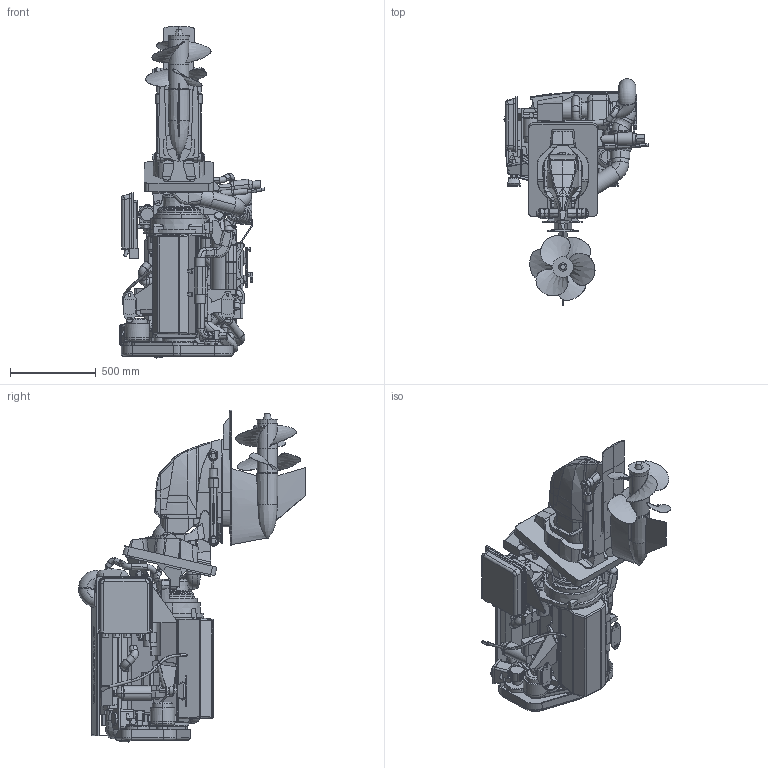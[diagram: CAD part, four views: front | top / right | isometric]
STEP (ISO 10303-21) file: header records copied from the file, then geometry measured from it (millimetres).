
FILE_DESCRIPTION(('CoCreate Modeling STEP Export'),'2;1');
FILE_NAME('6BY3-220Z_ZT370.stp','2013-06-06T 9:50:36',(''),(''),'CoCreate Modeling STEP processor for AP214 (Solid Model)','CoCreate Modeling 16.50A 01-Dec-2009 (C) Parametric Technology GmbH','');
FILE_SCHEMA(('AUTOMOTIVE_DESIGN { 1 0 10303 214 1 1 1 1 }'));
Length unit declared in the file: millimetre
Products named in the file (61): 6BY3_013; 6BY3_003; 6BY3_007; 6BY3_016; 6BY3_009; 6BY3_008; 6BY3_011; 6BY3_002; 6BY3_004; 6BY3_006; 6BY3_012; 6BY3_010; 6BY3_005; 6BY3_001; 6BY3_019; 6BY3_025; 6BY3_020; 6BY3_018; 6BY3_024; 6BY3_023; 6BY3_017; 6BY3_021; 6BY3_026; 6BY3_027; 6BY3_028; 6BY3_029; 6BY3_030; 6BY3_022; 6BY3_043; 6BY3_033; 6BY3_034; 6BY3_042; 6BY3_040; 6BY3_035; 6BY3_039; 6BY3_044; 6BY3_031; 6BY3_032; 6BY3_014; 6BY3_047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
Assembly tree (60 placements, depth 4):
  6BY3-220Z_ZT370
    ZT370_Sterndrive-BY
      Boat
      ZT370_BY_004
      ZT370_BY_003
      ZT370_BY_002
      ZT370_BY_007
      ZT370_BY_006
      ZT370_BY_005
      ZT370_BY_008
      ZT370_BY_012
      ZT370_BY_013
      ZT370_BY_009
      ZT370_BY_011
      ZT370_BY_010
      ZT370_BY_001
    6BY3-220Z_Engine_Sterndrive
      Base
        6BY3_045
        6BY3_041
        6BY3_046
        6BY3_047
        6BY3_014
        6BY3_032
        6BY3_031
        6BY3_044
        6BY3_039
        6BY3_035
        6BY3_040
        6BY3_042
        6BY3_034
        6BY3_033
        6BY3_043
        6BY3_022
        6BY3_030
        6BY3_029
        6BY3_028
        6BY3_027
        6BY3_026
        6BY3_021
        6BY3_017
        6BY3_023
        6BY3_024
        6BY3_018
        6BY3_020
        6BY3_025
        6BY3_019
        6BY3_001
        6BY3_005
        6BY3_010
        6BY3_012
        6BY3_006
        6BY3_004
        6BY3_002
        6BY3_011
        6BY3_008
        6BY3_009
        6BY3_016
        6BY3_007
        6BY3_003
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Bounding box: 844.12 x 1321.81 x 1935.43 mm (x, y, z)
Volume: 257473674.5 mm3; surface area: 13773152.5 mm2
Topology: 57 solids, 57 shells, 4786 faces, 13016 edges, 8494 vertices
Faces by surface type: plane 2263, cylinder 1553, bspline 493, torus 268, cone 129, extrusion 50, sphere 27, revolution 3
Entity records: 202121 total; most frequent: CARTESIAN_POINT 89876, ORIENTED_EDGE 26008, DIRECTION 19380, EDGE_CURVE 13004, VERTEX_POINT 8494, VECTOR 7190, LINE 7142, AXIS2_PLACEMENT_3D 6094
